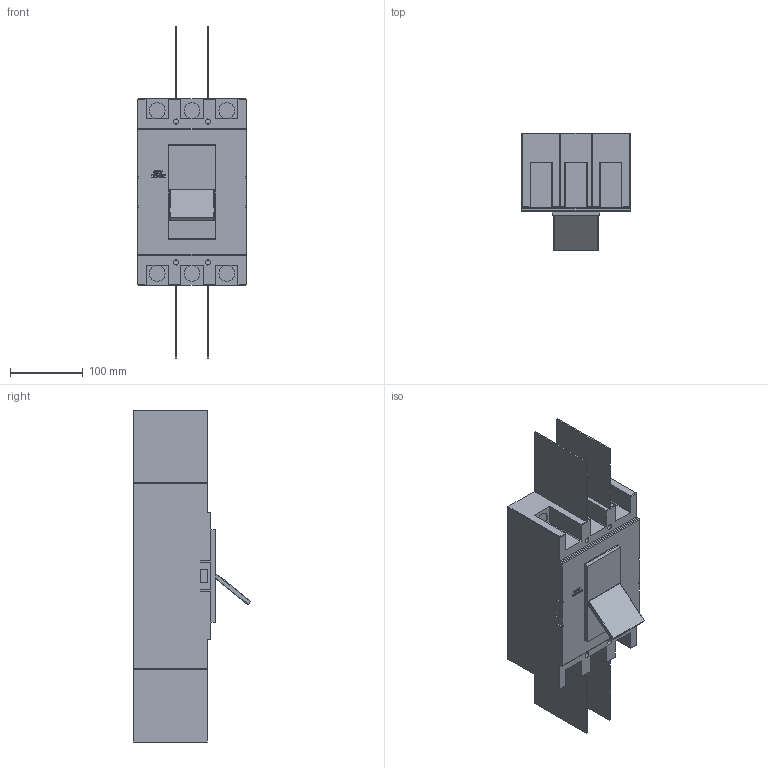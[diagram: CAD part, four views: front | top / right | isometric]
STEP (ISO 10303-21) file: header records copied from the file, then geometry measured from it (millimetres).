
FILE_DESCRIPTION(/* description */ ('','CAx-IF Rec.Pracs.---Representation and Presentation of Product Manufacturing Information (PMI)---3.8---2014-02-18'),/* implementation_level */ '2;1');
FILE_NAME(/* name */ 'C:\Users\ILYA\Desktop\NM1\Авт. выкл. NM1-400H3Р 250A 50кА (CHINT)\Авт. выкл. NM1-400H3Р 250A 50кА (CHINT).stp',/* time_stamp */ '2017-08-19T07:54:16+03:00',/* author */ ('ILYA'),/* organization */ (''),/* preprocessor_version */ 'ST-DEVELOPER v16.1',/* originating_system */ 'Autodesk Inventor 2016',/* authorisation */ '');
FILE_SCHEMA (('AP242_MANAGED_MODEL_BASED_3D_ENGINEERING_MIM_LF { 1 0 10303 442 1 1 4 }'));
Length unit declared in the file: millimetre
Products named in the file (1): Авт. выкл. NM1-40
0H3Р 250A 50кА (CHINT)
Bounding box: 150 x 161.79 x 457 mm (x, y, z)
Volume: 3900233.5 mm3; surface area: 278842 mm2
Topology: 1 solids, 1 shells, 330 faces, 884 edges, 580 vertices
Faces by surface type: plane 229, cylinder 52, bspline 41, torus 4, sphere 4
Full cylindrical faces by diameter (mm): 7 x4, 22 x6
Entity records: 10525 total; most frequent: CARTESIAN_POINT 2449, ORIENTED_EDGE 1736, DIRECTION 1468, EDGE_CURVE 868, LINE 676, VECTOR 676, VERTEX_POINT 574, AXIS2_PLACEMENT_3D 396
